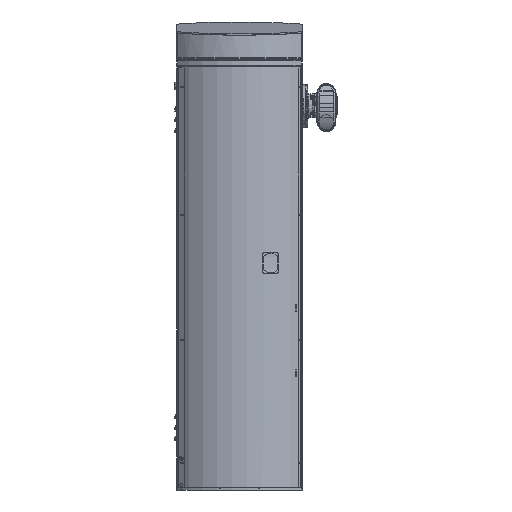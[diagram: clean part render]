
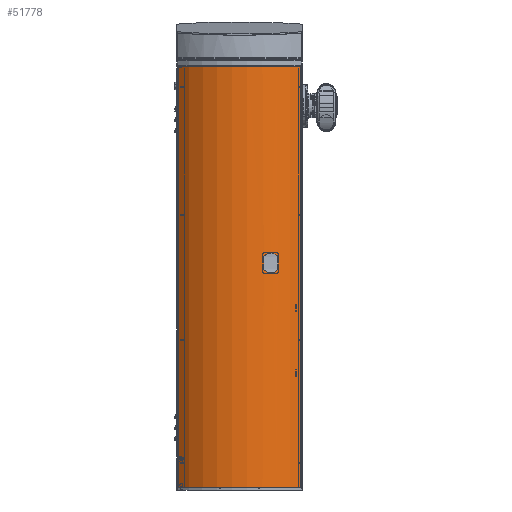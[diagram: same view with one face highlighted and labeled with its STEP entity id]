
A CAD part, left-side view. The second image highlights one B-rep face of the part: STEP entity #51778.
In plain terms, the highlighted cylindrical face has radius 201 mm (diameter 402 mm), a partial arc.
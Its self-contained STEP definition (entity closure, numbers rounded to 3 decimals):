
#854=CYLINDRICAL_SURFACE('',#55634,201.);
#1091=B_SPLINE_CURVE_WITH_KNOTS('',3,(#84624,#84625,#84626,#84627,#84628,
#84629,#84630,#84631),.UNSPECIFIED.,.F.,.F.,(4,1,1,1,1,4),(0.,
0.005,0.007,0.01,0.014,
0.019),.UNSPECIFIED.);
#1092=B_SPLINE_CURVE_WITH_KNOTS('',3,(#84636,#84637,#84638,#84639,#84640,
#84641,#84642,#84643),.UNSPECIFIED.,.F.,.F.,(4,1,1,1,1,4),(0.,
0.005,0.007,0.01,0.014,
0.019),.UNSPECIFIED.);
#1093=B_SPLINE_CURVE_WITH_KNOTS('',3,(#84645,#84646,#84647,#84648,#84649),
 .UNSPECIFIED.,.F.,.F.,(4,1,4),(0.,0.01,0.02),
 .UNSPECIFIED.);
#1094=B_SPLINE_CURVE_WITH_KNOTS('',3,(#84653,#84654,#84655,#84656,#84657),
 .UNSPECIFIED.,.F.,.F.,(4,1,4),(0.,0.01,
0.02),.UNSPECIFIED.);
#5568=LINE('',#84622,#10237);
#5569=LINE('',#84634,#10238);
#5570=LINE('',#84651,#10239);
#5571=LINE('',#84658,#10240);
#10237=VECTOR('',#67087,1000.);
#10238=VECTOR('',#67090,1000.);
#10239=VECTOR('',#67091,1000.);
#10240=VECTOR('',#67092,1000.);
#22041=ORIENTED_EDGE('',*,*,#28901,.T.);
#22042=ORIENTED_EDGE('',*,*,#28902,.T.);
#22043=ORIENTED_EDGE('',*,*,#28903,.T.);
#22044=ORIENTED_EDGE('',*,*,#28904,.T.);
#22045=ORIENTED_EDGE('',*,*,#28905,.T.);
#22046=ORIENTED_EDGE('',*,*,#28906,.T.);
#22047=ORIENTED_EDGE('',*,*,#28896,.F.);
#22048=ORIENTED_EDGE('',*,*,#28900,.F.);
#22049=ORIENTED_EDGE('',*,*,#28892,.T.);
#22050=ORIENTED_EDGE('',*,*,#28907,.T.);
#28892=EDGE_CURVE('',#33350,#33349,#34852,.F.);
#28896=EDGE_CURVE('',#33352,#33353,#34856,.F.);
#28900=EDGE_CURVE('',#33350,#33352,#5568,.T.);
#28901=EDGE_CURVE('',#33355,#33356,#1091,.T.);
#28902=EDGE_CURVE('',#33356,#33357,#5569,.F.);
#28903=EDGE_CURVE('',#33357,#33358,#1092,.T.);
#28904=EDGE_CURVE('',#33358,#33359,#1093,.T.);
#28905=EDGE_CURVE('',#33359,#33360,#5570,.T.);
#28906=EDGE_CURVE('',#33360,#33355,#1094,.T.);
#28907=EDGE_CURVE('',#33349,#33353,#5571,.T.);
#33349=VERTEX_POINT('',#84606);
#33350=VERTEX_POINT('',#84608);
#33352=VERTEX_POINT('',#84614);
#33353=VERTEX_POINT('',#84616);
#33355=VERTEX_POINT('',#84632);
#33356=VERTEX_POINT('',#84633);
#33357=VERTEX_POINT('',#84635);
#33358=VERTEX_POINT('',#84644);
#33359=VERTEX_POINT('',#84650);
#33360=VERTEX_POINT('',#84652);
#34852=CIRCLE('',#55624,201.);
#34856=CIRCLE('',#55629,201.);
#38018=EDGE_LOOP('',(#22041,#22042,#22043,#22044,#22045,#22046));
#38019=EDGE_LOOP('',(#22047,#22048,#22049,#22050));
#41398=FACE_BOUND('',#38018,.T.);
#41399=FACE_BOUND('',#38019,.T.);
#51778=ADVANCED_FACE('',(#41398,#41399),#854,.T.);
#55624=AXIS2_PLACEMENT_3D('',#84607,#67067,#67068);
#55629=AXIS2_PLACEMENT_3D('',#84615,#67077,#67078);
#55634=AXIS2_PLACEMENT_3D('',#84623,#67088,#67089);
#67067=DIRECTION('',(0.,0.,1.));
#67068=DIRECTION('',(-1.,0.,0.));
#67077=DIRECTION('',(0.,0.,1.));
#67078=DIRECTION('',(-1.,0.,0.));
#67087=DIRECTION('',(0.,0.,-1.));
#67088=DIRECTION('',(0.,0.,-1.));
#67089=DIRECTION('',(-1.,0.,0.));
#67090=DIRECTION('',(0.,0.,-1.));
#67091=DIRECTION('',(0.,0.,-1.));
#67092=DIRECTION('',(0.,0.,-1.));
#84606=CARTESIAN_POINT('',(-105.231,141.436,969.));
#84607=CARTESIAN_POINT('',(36.89,-0.7,969.));
#84608=CARTESIAN_POINT('',(-105.231,-142.836,969.));
#84614=CARTESIAN_POINT('',(-105.231,-142.836,6.));
#84615=CARTESIAN_POINT('',(36.89,-0.7,6.));
#84616=CARTESIAN_POINT('',(-105.231,141.436,6.));
#84622=CARTESIAN_POINT('',(-105.231,-142.836,969.));
#84623=CARTESIAN_POINT('',(36.89,-0.7,969.));
#84624=CARTESIAN_POINT('',(-151.213,-71.54,497.501));
#84625=CARTESIAN_POINT('',(-151.778,-70.041,497.488));
#84626=CARTESIAN_POINT('',(-152.596,-67.784,497.724));
#84627=CARTESIAN_POINT('',(-153.585,-64.902,498.527));
#84628=CARTESIAN_POINT('',(-154.523,-62.066,499.678));
#84629=CARTESIAN_POINT('',(-155.539,-58.811,501.702));
#84630=CARTESIAN_POINT('',(-156.187,-56.588,503.929));
#84631=CARTESIAN_POINT('',(-156.463,-55.614,505.174));
#84632=CARTESIAN_POINT('',(-151.213,-71.54,497.501));
#84633=CARTESIAN_POINT('',(-156.463,-55.614,505.174));
#84634=CARTESIAN_POINT('',(-156.463,-55.614,969.));
#84635=CARTESIAN_POINT('',(-156.463,-55.614,534.826));
#84636=CARTESIAN_POINT('',(-156.463,-55.614,534.826));
#84637=CARTESIAN_POINT('',(-156.187,-56.586,536.068));
#84638=CARTESIAN_POINT('',(-155.701,-58.255,537.74));
#84639=CARTESIAN_POINT('',(-154.934,-60.751,539.504));
#84640=CARTESIAN_POINT('',(-154.07,-63.46,540.984));
#84641=CARTESIAN_POINT('',(-152.869,-67.03,542.197));
#84642=CARTESIAN_POINT('',(-151.777,-70.041,542.512));
#84643=CARTESIAN_POINT('',(-151.214,-71.538,542.499));
#84644=CARTESIAN_POINT('',(-151.214,-71.538,542.499));
#84645=CARTESIAN_POINT('',(-151.214,-71.538,542.499));
#84646=CARTESIAN_POINT('',(-150.052,-74.622,542.526));
#84647=CARTESIAN_POINT('',(-147.597,-80.66,541.172));
#84648=CARTESIAN_POINT('',(-145.316,-85.591,537.312));
#84649=CARTESIAN_POINT('',(-144.38,-87.546,534.826));
#84650=CARTESIAN_POINT('',(-144.38,-87.546,534.826));
#84651=CARTESIAN_POINT('',(-144.38,-87.546,969.));
#84652=CARTESIAN_POINT('',(-144.38,-87.546,505.174));
#84653=CARTESIAN_POINT('',(-144.38,-87.546,505.174));
#84654=CARTESIAN_POINT('',(-145.315,-85.594,502.691));
#84655=CARTESIAN_POINT('',(-147.597,-80.661,498.826));
#84656=CARTESIAN_POINT('',(-150.053,-74.62,497.474));
#84657=CARTESIAN_POINT('',(-151.213,-71.54,497.501));
#84658=CARTESIAN_POINT('',(-105.231,141.436,969.));
